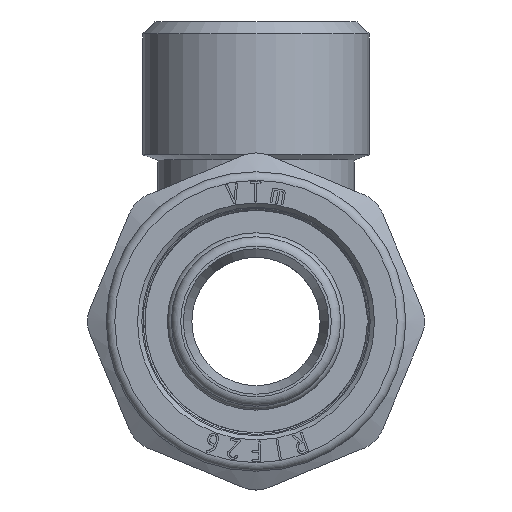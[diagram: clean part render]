
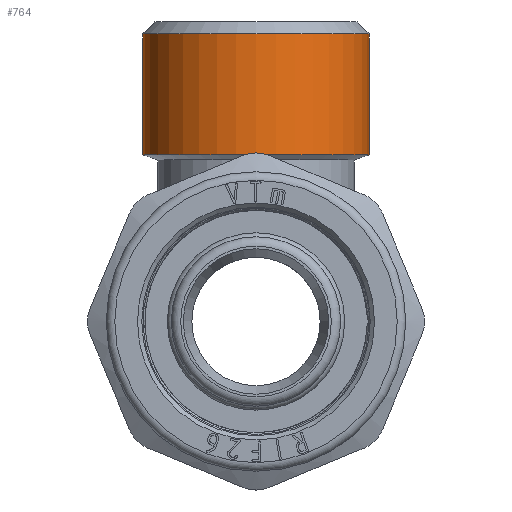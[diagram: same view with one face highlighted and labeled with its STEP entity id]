
A CAD part, front view. The second image highlights one B-rep face of the part: STEP entity #764.
In plain terms, the highlighted cylindrical face has radius 13.22 mm (diameter 26.441 mm), a full revolution.
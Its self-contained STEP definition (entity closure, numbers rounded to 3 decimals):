
#764=ADVANCED_FACE('',(#5840,#5842),#5844,.T.);
#5840=FACE_OUTER_BOUND('',#5841,.T.);
#5841=EDGE_LOOP('',(#11172));
#5842=FACE_OUTER_BOUND('',#5843,.T.);
#5843=EDGE_LOOP('',(#11173));
#5844=CYLINDRICAL_SURFACE('',#5845,13.221);
#5845=AXIS2_PLACEMENT_3D('',#5846,#5847,#5848);
#5846=CARTESIAN_POINT('',(0.,0.,19.5));
#5847=DIRECTION('',(0.,0.,1.));
#5848=DIRECTION('',(-1.,0.,0.));
#11172=ORIENTED_EDGE('',*,*,#13291,.F.);
#11173=ORIENTED_EDGE('',*,*,#13216,.F.);
#13216=EDGE_CURVE('',#16517,#16517,#16518,.F.);
#13291=EDGE_CURVE('',#16631,#16631,#16632,.T.);
#16517=VERTEX_POINT('',#28007);
#16518=CIRCLE('',#28008,13.221);
#16631=VERTEX_POINT('',#28274);
#16632=CIRCLE('',#28275,13.221);
#28007=CARTESIAN_POINT('',(-13.221,0.,19.5));
#28008=AXIS2_PLACEMENT_3D('',#28009,#28010,#28011);
#28009=CARTESIAN_POINT('',(0.,0.,19.5));
#28010=DIRECTION('',(0.,0.,1.));
#28011=DIRECTION('',(-1.,0.,0.));
#28274=CARTESIAN_POINT('',(-13.221,0.,33.6));
#28275=AXIS2_PLACEMENT_3D('',#28276,#28277,#28278);
#28276=CARTESIAN_POINT('',(0.,0.,33.6));
#28277=DIRECTION('',(0.,0.,1.));
#28278=DIRECTION('',(-1.,0.,0.));
